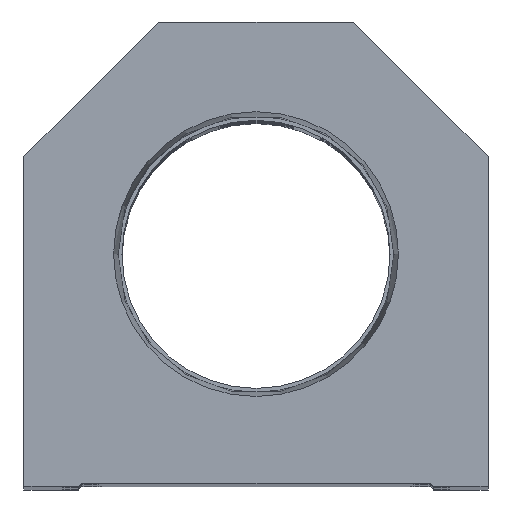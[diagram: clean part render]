
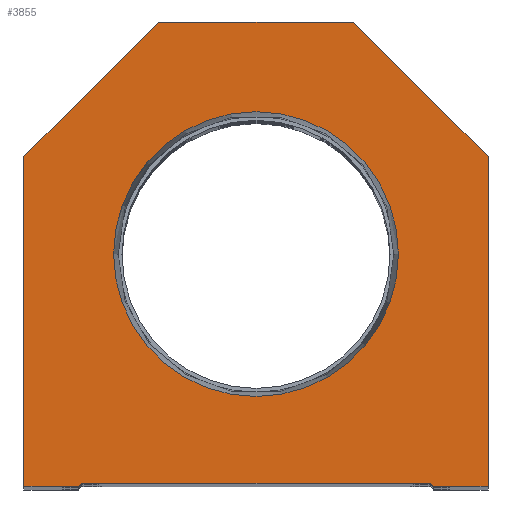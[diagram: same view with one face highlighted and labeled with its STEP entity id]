
A CAD part, top view. The second image highlights one B-rep face of the part: STEP entity #3855.
In plain terms, the highlighted planar face has unit normal (0, 0, 1).
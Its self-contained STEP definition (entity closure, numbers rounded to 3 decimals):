
#296 = VERTEX_POINT ( 'NONE', #9327 ) ;
#402 = EDGE_CURVE ( 'NONE', #17251, #9602, #12399, .T. ) ;
#455 = CARTESIAN_POINT ( 'NONE',  ( 38.1, 0., 0. ) ) ;
#458 = CARTESIAN_POINT ( 'NONE',  ( 29.1, 0., 0. ) ) ;
#739 = ORIENTED_EDGE ( 'NONE', *, *, #9731, .T. ) ;
#743 = ORIENTED_EDGE ( 'NONE', *, *, #402, .T. ) ;
#1105 = VECTOR ( 'NONE', #10837, 1000. ) ;
#1683 = DIRECTION ( 'NONE',  ( 1., 0., 0. ) ) ;
#1745 = CARTESIAN_POINT ( 'NONE',  ( -28.6, 0.5, 0. ) ) ;
#1902 = DIRECTION ( 'NONE',  ( 0., 0., 1. ) ) ;
#2032 = AXIS2_PLACEMENT_3D ( 'NONE', #14083, #2626, #9620 ) ;
#2345 = EDGE_CURVE ( 'NONE', #296, #6715, #20899, .T. ) ;
#2428 = LINE ( 'NONE', #7454, #14900 ) ;
#2501 = LINE ( 'NONE', #6078, #1105 ) ;
#2626 = DIRECTION ( 'NONE',  ( 0., 0., 1. ) ) ;
#3072 = EDGE_CURVE ( 'NONE', #20783, #20143, #2501, .T. ) ;
#3688 = VECTOR ( 'NONE', #4333, 1000. ) ;
#3809 = VERTEX_POINT ( 'NONE', #14651 ) ;
#3855 = ADVANCED_FACE ( 'NONE', ( #8002, #18404 ), #16653, .T. ) ;
#4241 = EDGE_CURVE ( 'NONE', #9602, #6473, #11044, .T. ) ;
#4333 = DIRECTION ( 'NONE',  ( 0.707, 0.707, 0. ) ) ;
#4535 = ORIENTED_EDGE ( 'NONE', *, *, #15436, .F. ) ;
#4948 = EDGE_LOOP ( 'NONE', ( #15192, #9699, #15183, #19913, #743, #9614, #7869, #739, #16614, #18660 ) ) ;
#5367 = CARTESIAN_POINT ( 'NONE',  ( 23.374, 38.1, 0. ) ) ;
#5842 = CARTESIAN_POINT ( 'NONE',  ( -38.1, 0., 0. ) ) ;
#6000 = CARTESIAN_POINT ( 'NONE',  ( 16., 76.2, 0. ) ) ;
#6078 = CARTESIAN_POINT ( 'NONE',  ( -28.6, 0.5, 0. ) ) ;
#6369 = CARTESIAN_POINT ( 'NONE',  ( -16., 76.2, 0. ) ) ;
#6411 = CARTESIAN_POINT ( 'NONE',  ( -38.1, 54.1, 0. ) ) ;
#6473 = VERTEX_POINT ( 'NONE', #11263 ) ;
#6715 = VERTEX_POINT ( 'NONE', #5367 ) ;
#6814 = CARTESIAN_POINT ( 'NONE',  ( 0., 38.1, 0. ) ) ;
#7454 = CARTESIAN_POINT ( 'NONE',  ( 14.55, 14.55, 0. ) ) ;
#7561 = EDGE_CURVE ( 'NONE', #6473, #10464, #20982, .T. ) ;
#7869 = ORIENTED_EDGE ( 'NONE', *, *, #7561, .T. ) ;
#7897 = EDGE_CURVE ( 'NONE', #15141, #14641, #18352, .T. ) ;
#8002 = FACE_BOUND ( 'NONE', #8283, .T. ) ;
#8208 = AXIS2_PLACEMENT_3D ( 'NONE', #16762, #19968, #11429 ) ;
#8283 = EDGE_LOOP ( 'NONE', ( #4535, #11261 ) ) ;
#8494 = EDGE_CURVE ( 'NONE', #13431, #3809, #15785, .T. ) ;
#8545 = VECTOR ( 'NONE', #20792, 1000. ) ;
#8854 = CARTESIAN_POINT ( 'NONE',  ( 28.6, 0., 0. ) ) ;
#9327 = CARTESIAN_POINT ( 'NONE',  ( -23.374, 38.1, 0. ) ) ;
#9602 = VERTEX_POINT ( 'NONE', #455 ) ;
#9614 = ORIENTED_EDGE ( 'NONE', *, *, #4241, .T. ) ;
#9620 = DIRECTION ( 'NONE',  ( 1., 0., 0. ) ) ;
#9699 = ORIENTED_EDGE ( 'NONE', *, *, #10499, .T. ) ;
#9731 = EDGE_CURVE ( 'NONE', #10464, #15141, #14303, .T. ) ;
#10228 = EDGE_CURVE ( 'NONE', #14641, #13431, #14039, .T. ) ;
#10464 = VERTEX_POINT ( 'NONE', #13539 ) ;
#10499 = EDGE_CURVE ( 'NONE', #3809, #20783, #12784, .T. ) ;
#10592 = DIRECTION ( 'NONE',  ( 0., -1., 0. ) ) ;
#10837 = DIRECTION ( 'NONE',  ( 1., 0., 0. ) ) ;
#10857 = DIRECTION ( 'NONE',  ( -1., 0., 0. ) ) ;
#10987 = CARTESIAN_POINT ( 'NONE',  ( -28.6, 0., 0. ) ) ;
#11044 = LINE ( 'NONE', #15732, #8545 ) ;
#11261 = ORIENTED_EDGE ( 'NONE', *, *, #2345, .F. ) ;
#11263 = CARTESIAN_POINT ( 'NONE',  ( 38.1, 54.1, 0. ) ) ;
#11429 = DIRECTION ( 'NONE',  ( 1., 0., 0. ) ) ;
#11593 = CARTESIAN_POINT ( 'NONE',  ( -38.1, 54.1, 0. ) ) ;
#11911 = VECTOR ( 'NONE', #13072, 1000. ) ;
#11940 = CARTESIAN_POINT ( 'NONE',  ( 28.6, 0.5, 0. ) ) ;
#12399 = LINE ( 'NONE', #8854, #19336 ) ;
#12784 = LINE ( 'NONE', #20271, #3688 ) ;
#13061 = CARTESIAN_POINT ( 'NONE',  ( -38.1, 0., 0. ) ) ;
#13072 = DIRECTION ( 'NONE',  ( -0.707, -0.707, 0. ) ) ;
#13431 = VERTEX_POINT ( 'NONE', #13061 ) ;
#13539 = CARTESIAN_POINT ( 'NONE',  ( 16., 76.2, 0. ) ) ;
#14039 = LINE ( 'NONE', #5842, #16115 ) ;
#14083 = CARTESIAN_POINT ( 'NONE',  ( 0., 38.1, 0. ) ) ;
#14204 = AXIS2_PLACEMENT_3D ( 'NONE', #6814, #1902, #1683 ) ;
#14303 = LINE ( 'NONE', #6000, #18179 ) ;
#14575 = CARTESIAN_POINT ( 'NONE',  ( 38.1, 54.1, 0. ) ) ;
#14641 = VERTEX_POINT ( 'NONE', #11593 ) ;
#14651 = CARTESIAN_POINT ( 'NONE',  ( -29.1, 0., 0. ) ) ;
#14900 = VECTOR ( 'NONE', #21034, 1000. ) ;
#15141 = VERTEX_POINT ( 'NONE', #6369 ) ;
#15183 = ORIENTED_EDGE ( 'NONE', *, *, #3072, .T. ) ;
#15192 = ORIENTED_EDGE ( 'NONE', *, *, #8494, .T. ) ;
#15436 = EDGE_CURVE ( 'NONE', #6715, #296, #20151, .T. ) ;
#15447 = VECTOR ( 'NONE', #16360, 1000. ) ;
#15732 = CARTESIAN_POINT ( 'NONE',  ( 38.1, 0., 0. ) ) ;
#15785 = LINE ( 'NONE', #10987, #20367 ) ;
#16115 = VECTOR ( 'NONE', #10592, 1000. ) ;
#16360 = DIRECTION ( 'NONE',  ( -0.707, 0.707, 0. ) ) ;
#16614 = ORIENTED_EDGE ( 'NONE', *, *, #7897, .T. ) ;
#16653 = PLANE ( 'NONE',  #8208 ) ;
#16762 = CARTESIAN_POINT ( 'NONE',  ( 0., 0., 0. ) ) ;
#17251 = VERTEX_POINT ( 'NONE', #458 ) ;
#17822 = EDGE_CURVE ( 'NONE', #20143, #17251, #2428, .T. ) ;
#18179 = VECTOR ( 'NONE', #10857, 1000. ) ;
#18352 = LINE ( 'NONE', #6411, #11911 ) ;
#18404 = FACE_OUTER_BOUND ( 'NONE', #4948, .T. ) ;
#18660 = ORIENTED_EDGE ( 'NONE', *, *, #10228, .T. ) ;
#19143 = DIRECTION ( 'NONE',  ( 1., 0., 0. ) ) ;
#19336 = VECTOR ( 'NONE', #19143, 1000. ) ;
#19913 = ORIENTED_EDGE ( 'NONE', *, *, #17822, .T. ) ;
#19968 = DIRECTION ( 'NONE',  ( 0., 0., 1. ) ) ;
#20143 = VERTEX_POINT ( 'NONE', #11940 ) ;
#20151 = CIRCLE ( 'NONE', #2032, 23.374 ) ;
#20271 = CARTESIAN_POINT ( 'NONE',  ( -14.55, 14.55, 0. ) ) ;
#20367 = VECTOR ( 'NONE', #20854, 1000. ) ;
#20783 = VERTEX_POINT ( 'NONE', #1745 ) ;
#20792 = DIRECTION ( 'NONE',  ( 0., 1., 0. ) ) ;
#20854 = DIRECTION ( 'NONE',  ( 1., 0., 0. ) ) ;
#20899 = CIRCLE ( 'NONE', #14204, 23.374 ) ;
#20982 = LINE ( 'NONE', #14575, #15447 ) ;
#21034 = DIRECTION ( 'NONE',  ( 0.707, -0.707, 0. ) ) ;
